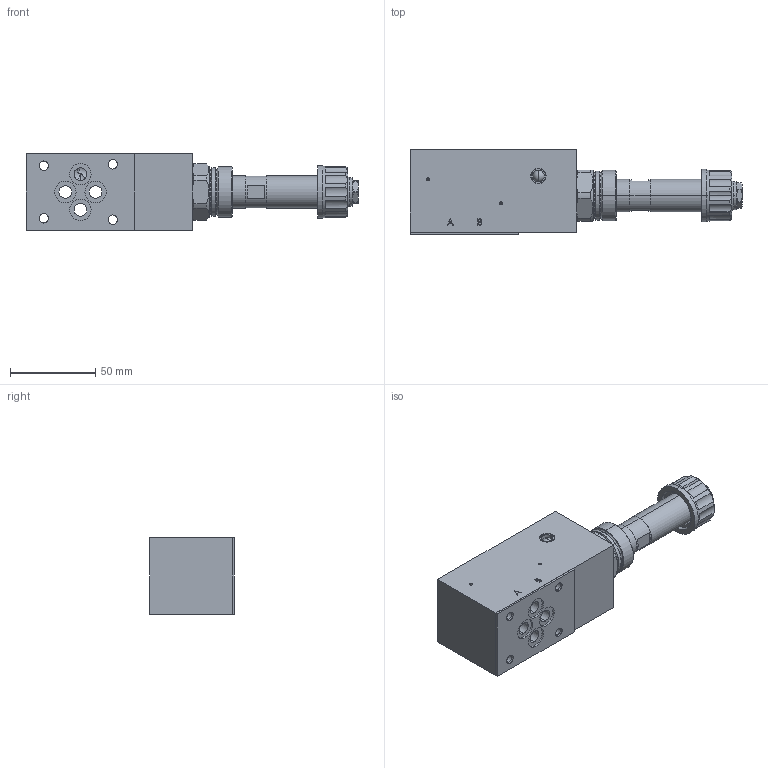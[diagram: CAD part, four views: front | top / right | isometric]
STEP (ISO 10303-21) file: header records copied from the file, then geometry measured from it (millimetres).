
FILE_DESCRIPTION (( 'STEP AP214' ), '1' );
FILE_NAME ('DNPSA06-P.STEP', '2017-04-19T12:06:32', ( '' ), ( '' ), 'SwSTEP 2.0', 'SolidWorks 2016', '' );
FILE_SCHEMA (( 'AUTOMOTIVE_DESIGN' ));
Length unit declared in the file: millimetre
Products named in the file (1): DNPSA06-P
Bounding box: 195.2 x 49.75 x 45 mm (x, y, z)
Volume: 246300.4 mm3; surface area: 45715.7 mm2
Topology: 2 solids, 4 shells, 439 faces, 1128 edges, 725 vertices
Faces by surface type: plane 209, cylinder 113, cone 78, bspline 25, torus 10, sphere 4
Entity records: 20003 total; most frequent: CARTESIAN_POINT 4486, ORIENTED_EDGE 2232, DIRECTION 2149, EDGE_CURVE 1116, AXIS2_PLACEMENT_3D 762, VERTEX_POINT 725, VECTOR 625, LINE 625
